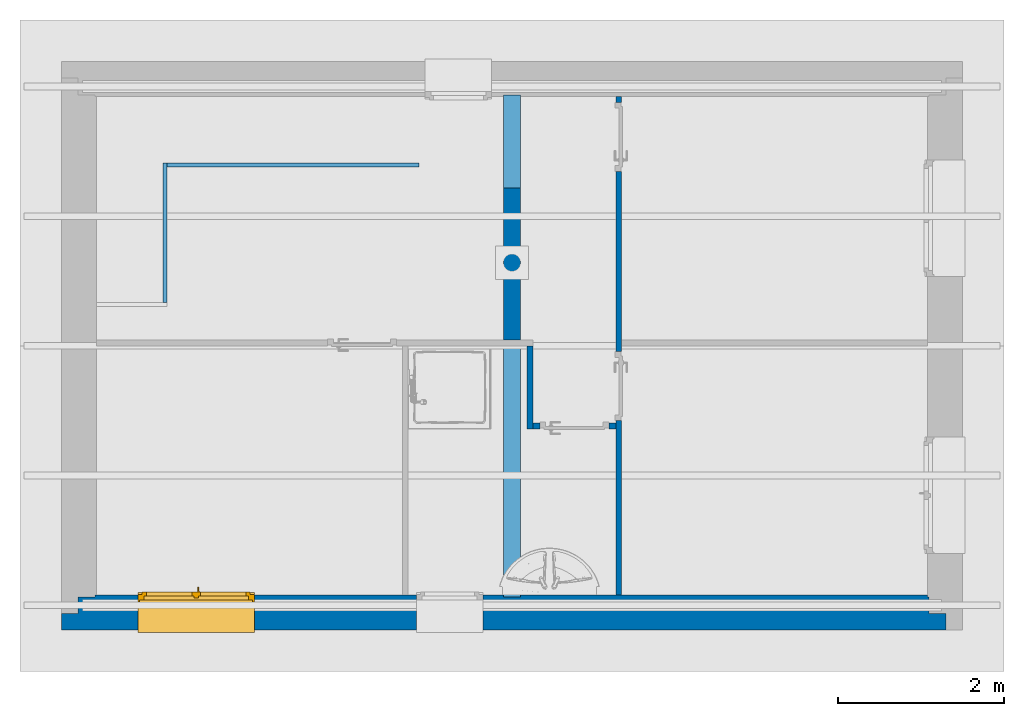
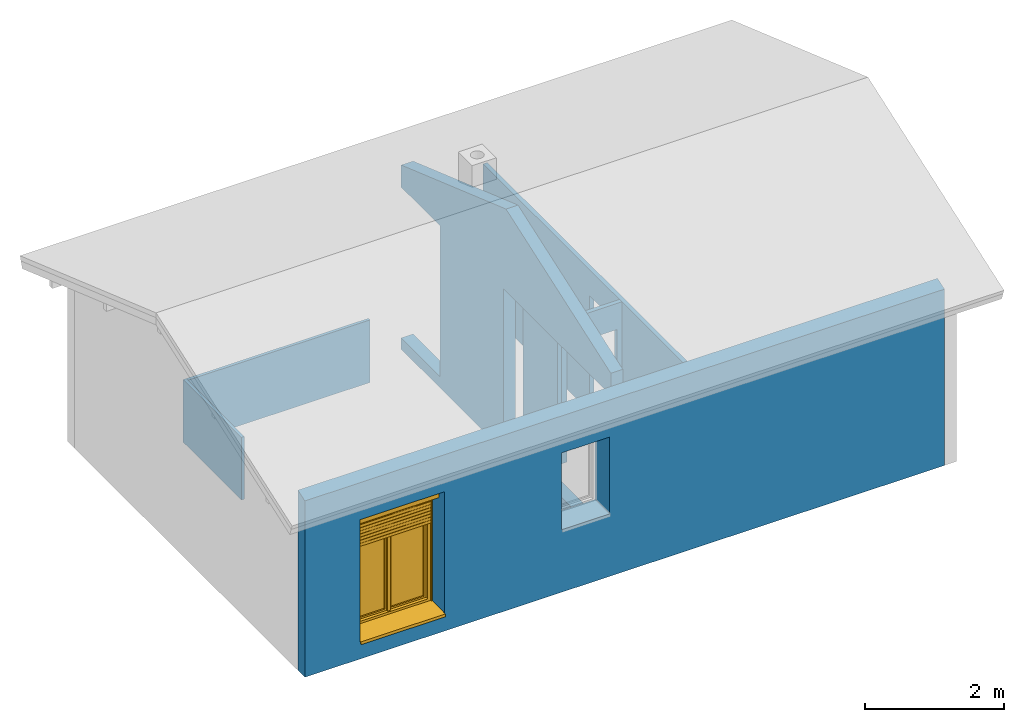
# One storey, part 2 of 7: 7 walls, 1 door, 7 openings.
"""IFC4 building model written with IfcOpenShell, lengths in metres."""

from ifc_helpers import new_model, entity, si_unit, converted_unit, frame, frame_2d, origin, origin_with_axes, place, context, subcontext, project, spatial, polyline, rectangle, outline, extrude, clip, bounded_halfspace, closed_shell, open_shell, surface_model, source, transform, mapped, material, layer, layer_set, layer_usage, type_object, element, fill, save


model = new_model("IFC4")

# Units and contexts
model_context = context("Model", 3, precision=1e-05, world=origin())
body_context = subcontext(model_context, "Body", "Model", "MODEL_VIEW")
ifc_project = project(units=[si_unit("LENGTHUNIT", "METRE"), si_unit("AREAUNIT", "SQUARE_METRE"), si_unit("VOLUMEUNIT", "CUBIC_METRE"), si_unit("MASSUNIT", "GRAM", prefix="KILO"), converted_unit("PLANEANGLEUNIT", "DEGREE", entity("IfcPlaneAngleMeasure", 0.0174532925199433), si_unit("PLANEANGLEUNIT", "RADIAN"), dimensions=[0, 0, 0, 0, 0, 0, 0])], contexts=[model_context])

# Building, storey
building_placement = place(None, origin())
building = spatial("IfcBuilding", under=ifc_project, at=building_placement, Name="Projet de Construction", CompositionType="ELEMENT")
storey_placement = place(building_placement, frame((0.0, 0.0, 2.8)))
storey = spatial("IfcBuildingStorey", under=building, at=storey_placement, Name="R+1", CompositionType="ELEMENT", Elevation=2.8)

# Wall, openings, door
ifc_material_1 = material()
ifc_layer_1 = layer(ifc_material_1, 0.2)
ifc_material_2 = material()
ifc_layer_2 = layer(ifc_material_2, 0.2)
ifc_material_3 = material()
ifc_layer_3 = layer(ifc_material_3, 0.0200000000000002)
ifc_layer_set_1 = layer_set([ifc_layer_1, ifc_layer_2, ifc_layer_3])
ifc_layer_usage_1 = layer_usage(ifc_layer_set_1, "AXIS2", "POSITIVE", 0.0)
wall_1_placement = place(storey_placement, frame((-7.2859375, 1.29979166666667, 0.0), z_axis=(0.0, 0.0, 1.0), x_axis=(1.0, -1.28218238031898e-16, 0.0)))
wall_1 = element("IfcWall", 1, at=wall_1_placement, inside=storey, material=ifc_layer_usage_1, context=body_context, shape_type="Clipping", body=[
    clip(clip(clip(clip(extrude(outline(polyline([(-1.74920712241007e-31, 1.36424205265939e-15), (10.64, 1.36424205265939e-15), (10.64, 0.200000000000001), (10.44, 0.200000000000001), (10.44, 0.400000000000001), (10.42, 0.400000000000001), (10.42, 0.420000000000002), (0.4, 0.420000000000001), (0.4, 0.400000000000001), (0.2, 0.400000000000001), (0.2, 0.200000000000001), (-2.56436476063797e-17, 0.200000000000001), (-1.74920712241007e-31, 1.36424205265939e-15)])), frame((1.74920712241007e-31, -1.36424205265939e-15, 0.0), z_axis=(0.0, 0.0, 1.0), x_axis=(1.0, 0.0, 0.0)), (0.0, 0.0, 1.0), 3.17000000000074), bounded_halfspace(frame((5.365, 0.355, 0.2), z_axis=(0.0, 0.0, 1.0), x_axis=(-1.28218238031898e-16, 1.0, 0.0)), True, origin_with_axes(), polyline([(10.42, 0.4), (10.42, 0.42), (0.4, 0.42), (0.399999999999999, 0.4), (0.2, 0.4), (0.2, 0.2), (10.44, 0.2), (10.44, 0.4), (10.42, 0.4)]))), bounded_halfspace(frame((5.32, 0.1, 3.13500000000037), z_axis=(-8.06799036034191e-17, 0.330350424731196, -0.943858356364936), x_axis=(-1.0, 0.0, 8.54788253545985e-17)), True, origin_with_axes(), polyline([(10.64, 0.2), (-2.56436476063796e-17, 0.2), (0.0, 0.0), (10.64, 0.0), (10.64, 0.2)]))), bounded_halfspace(frame((5.32, 0.3, 2.97000000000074), z_axis=(0.0, 0.0, -1.0), x_axis=(1.0, -5.00852492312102e-18, 0.0)), True, origin_with_axes(), polyline([(0.2, 0.2), (10.44, 0.2), (10.44, 0.4), (0.2, 0.4), (0.2, 0.2)]))), bounded_halfspace(frame((5.41, 0.41, 2.8), z_axis=(0.0, 0.0, -1.0), x_axis=(1.0, -7.93366343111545e-18, 0.0)), True, origin_with_axes(), polyline([(0.4, 0.4), (10.42, 0.4), (10.42, 0.42), (0.4, 0.42), (0.4, 0.4)]))),
])
opening_1_placement = place(wall_1_placement, frame((5.07, 0.199999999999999, 1.1), z_axis=(0.0, -1.0, 0.0), x_axis=(0.0, 0.0, 1.0)))
element("IfcOpeningStandardCase", 2, at=opening_1_placement, cuts=wall_1, Name="Baie de fenêtre", PredefinedType="OPENING", context=body_context, shape_type="SweptSolid", body=[
    extrude(outline(polyline([(0.0, 0.8), (1.35, 0.8), (1.35, 0.0), (0.0, 0.0), (0.0, 0.8)])), origin_with_axes(), (0.0, 0.0, 1.0), 0.2),
    extrude(outline(polyline([(0.0, 0.8), (1.35, 0.8), (1.35, 0.0), (0.0, 0.0), (0.0, 0.8)])), frame((0.0, 5.6843418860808e-17, -0.2), z_axis=(0.0, 0.0, 1.0), x_axis=(1.0, 0.0, 0.0)), (0.0, 0.0, 1.0), 0.2),
    extrude(outline(polyline([(0.0, 0.8), (1.35, 0.8), (1.35, 0.0), (0.0, 0.0), (0.0, 0.8)])), frame((0.0, 6.25277607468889e-17, -0.22), z_axis=(0.0, 0.0, 1.0), x_axis=(1.0, 0.0, 0.0)), (0.0, 0.0, 1.0), 0.0200000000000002),
])
opening_2_placement = place(wall_1_placement, frame((2.32, 0.199999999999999, 0.3), z_axis=(0.0, -1.0, 0.0), x_axis=(0.0, 0.0, 1.0)))
opening_2 = element("IfcOpeningStandardCase", 3, at=opening_2_placement, cuts=wall_1, Name="Baie de porte", PredefinedType="OPENING", context=body_context, shape_type="SweptSolid", body=[
    extrude(outline(polyline([(0.0, 1.4), (2.15, 1.4), (2.15, 0.0), (0.0, 0.0), (0.0, 1.4)])), origin_with_axes(), (0.0, 0.0, 1.0), 0.2),
    extrude(outline(polyline([(0.0, 1.4), (2.15, 1.4), (2.15, 0.0), (0.0, 0.0), (0.0, 1.4)])), frame((0.0, 3.24819536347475e-17, -0.2), z_axis=(0.0, 0.0, 1.0), x_axis=(1.0, 0.0, 0.0)), (0.0, 0.0, 1.0), 0.2),
    extrude(outline(polyline([(0.0, 1.4), (2.15, 1.4), (2.15, 0.0), (0.0, 0.0), (0.0, 1.4)])), frame((0.0, 3.57301489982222e-17, -0.22), z_axis=(0.0, 0.0, 1.0), x_axis=(1.0, 0.0, 0.0)), (0.0, 0.0, 1.0), 0.02),
])
ifc_material_4 = material()
door_type = type_object("IfcDoorType", Name="3 vantaux blanc, monté", OperationType="NOTDEFINED", ParameterTakesPrecedence=False, PredefinedType="DOOR")
shared_shape = source(origin_with_axes(), body_context, "Body", "SurfaceModel", [
    surface_model("IfcShellBasedSurfaceModel", [(0.0, 0.0199999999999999, 0.03), (0.0, 0.39, 0.03), (-3.67394039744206e-18, 0.39, 0.06), (-2.44929359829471e-18, 0.0, 0.05), (3.67394039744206e-18, 0.0, 0.0), (3.67394039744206e-18, 0.0199999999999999, 0.0), (1.4, 0.39, 0.0300000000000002), (1.4, 0.0199999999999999, 0.0300000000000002), (1.4, 0.0199999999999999, 1.70530256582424e-16), (1.4, 0.0, 1.70530256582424e-16), (1.4, 0.0, 0.0500000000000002), (1.4, 0.39, 0.0600000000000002)], [closed_shell([[[0, 1, 2, 3, 4, 5]], [[6, 7, 8, 9, 10, 11]], [[1, 0, 7, 6]], [[2, 1, 6, 11]], [[3, 2, 11, 10]], [[4, 3, 10, 9]], [[5, 4, 9, 8]], [[0, 5, 8, 7]]], orient=[[False], [False], [False], [False], [False], [False], [False], [False]])]),
    surface_model("IfcShellBasedSurfaceModel", [(0.0, 0.48, 0.03), (-3.67394039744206e-18, 0.48, 0.06), (-3.67394039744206e-18, 0.43, 0.06), (0.0, 0.43, 0.03), (1.4, 0.43, 0.0300000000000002), (1.4, 0.43, 0.0600000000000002), (1.4, 0.48, 0.0600000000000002), (1.4, 0.48, 0.0300000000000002)], [closed_shell([[[0, 1, 2, 3]], [[4, 5, 6, 7]], [[3, 4, 7, 0]], [[2, 5, 4, 3]], [[1, 6, 5, 2]], [[0, 7, 6, 1]]], orient=[[False], [False], [False], [False], [False], [False]])]),
    surface_model("IfcShellBasedSurfaceModel", [(0.0, 0.39, 2.18), (0.0, 0.39, 1.98), (1.4, 0.39, 1.98), (1.4, 0.39, 2.18), (0.0, 0.19, 1.98), (0.0, 0.19, 2.18), (1.4, 0.19, 2.18), (1.4, 0.19, 1.98)], [closed_shell([[[0, 1, 2, 3]], [[4, 5, 6, 7]], [[1, 0, 5, 4]], [[2, 1, 4, 7]], [[3, 2, 7, 6]], [[0, 3, 6, 5]]], orient=[[False], [False], [False], [False], [False], [False]])]),
    surface_model("IfcShellBasedSurfaceModel", [(0.0, 0.39, 1.98), (0.0, 0.39, 0.03), (0.02, 0.39, 0.03), (0.02, 0.39, 1.98), (0.0, 0.37, 0.03), (0.0, 0.37, 1.98), (0.02, 0.37, 1.98), (0.02, 0.37, 0.03)], [closed_shell([[[0, 1, 2, 3]], [[4, 5, 6, 7]], [[1, 0, 5, 4]], [[2, 1, 4, 7]], [[3, 2, 7, 6]], [[0, 3, 6, 5]]], orient=[[False], [False], [False], [False], [False], [False]])]),
    surface_model("IfcShellBasedSurfaceModel", [(1.38, 0.39, 1.98), (1.38, 0.39, 0.03), (1.4, 0.39, 0.03), (1.4, 0.39, 1.98), (1.38, 0.37, 0.03), (1.38, 0.37, 1.98), (1.4, 0.37, 1.98), (1.4, 0.37, 0.03)], [closed_shell([[[0, 1, 2, 3]], [[4, 5, 6, 7]], [[1, 0, 5, 4]], [[2, 1, 4, 7]], [[3, 2, 7, 6]], [[0, 3, 6, 5]]], orient=[[False], [False], [False], [False], [False], [False]])]),
    surface_model("IfcShellBasedSurfaceModel", [(0.01, 0.385, 1.975), (0.01, 0.385, 1.925), (1.39, 0.385, 1.925), (1.39, 0.385, 1.975), (0.01, 0.375, 1.925), (0.01, 0.375, 1.975), (1.39, 0.375, 1.975), (1.39, 0.375, 1.925)], [closed_shell([[[0, 1, 2, 3]], [[4, 5, 6, 7]], [[1, 0, 5, 4]], [[2, 1, 4, 7]], [[3, 2, 7, 6]], [[0, 3, 6, 5]]], orient=[[False], [False], [False], [False], [False], [False]])]),
    surface_model("IfcShellBasedSurfaceModel", [(0.01, 0.385, 1.92), (0.01, 0.385, 1.87), (1.39, 0.385, 1.87), (1.39, 0.385, 1.92), (0.01, 0.375, 1.87), (0.01, 0.375, 1.92), (1.39, 0.375, 1.92), (1.39, 0.375, 1.87)], [closed_shell([[[0, 1, 2, 3]], [[4, 5, 6, 7]], [[1, 0, 5, 4]], [[2, 1, 4, 7]], [[3, 2, 7, 6]], [[0, 3, 6, 5]]], orient=[[False], [False], [False], [False], [False], [False]])]),
    surface_model("IfcShellBasedSurfaceModel", [(0.01, 0.385, 1.865), (0.01, 0.385, 1.815), (1.39, 0.385, 1.815), (1.39, 0.385, 1.865), (0.01, 0.375, 1.815), (0.01, 0.375, 1.865), (1.39, 0.375, 1.865), (1.39, 0.375, 1.815)], [closed_shell([[[0, 1, 2, 3]], [[4, 5, 6, 7]], [[1, 0, 5, 4]], [[2, 1, 4, 7]], [[3, 2, 7, 6]], [[0, 3, 6, 5]]], orient=[[False], [False], [False], [False], [False], [False]])]),
    surface_model("IfcShellBasedSurfaceModel", [(0.01, 0.385, 1.81), (0.01, 0.385, 1.76), (1.39, 0.385, 1.76), (1.39, 0.385, 1.81), (0.01, 0.375, 1.76), (0.01, 0.375, 1.81), (1.39, 0.375, 1.81), (1.39, 0.375, 1.76)], [closed_shell([[[0, 1, 2, 3]], [[4, 5, 6, 7]], [[1, 0, 5, 4]], [[2, 1, 4, 7]], [[3, 2, 7, 6]], [[0, 3, 6, 5]]], orient=[[False], [False], [False], [False], [False], [False]])]),
    surface_model("IfcShellBasedSurfaceModel", [(0.01, 0.385, 1.755), (0.01, 0.385, 1.705), (1.39, 0.385, 1.705), (1.39, 0.385, 1.755), (0.01, 0.375, 1.705), (0.01, 0.375, 1.755), (1.39, 0.375, 1.755), (1.39, 0.375, 1.705)], [closed_shell([[[0, 1, 2, 3]], [[4, 5, 6, 7]], [[1, 0, 5, 4]], [[2, 1, 4, 7]], [[3, 2, 7, 6]], [[0, 3, 6, 5]]], orient=[[False], [False], [False], [False], [False], [False]])]),
    surface_model("IfcShellBasedSurfaceModel", [(0.01, 0.385, 1.7), (0.01, 0.385, 1.65), (1.39, 0.385, 1.65), (1.39, 0.385, 1.7), (0.01, 0.375, 1.65), (0.01, 0.375, 1.7), (1.39, 0.375, 1.7), (1.39, 0.375, 1.65)], [closed_shell([[[0, 1, 2, 3]], [[4, 5, 6, 7]], [[1, 0, 5, 4]], [[2, 1, 4, 7]], [[3, 2, 7, 6]], [[0, 3, 6, 5]]], orient=[[False], [False], [False], [False], [False], [False]])]),
    surface_model("IfcShellBasedSurfaceModel", [(0.01, 0.385, 1.645), (0.01, 0.385, 1.595), (1.39, 0.385, 1.595), (1.39, 0.385, 1.645), (0.01, 0.375, 1.595), (0.01, 0.375, 1.645), (1.39, 0.375, 1.645), (1.39, 0.375, 1.595)], [closed_shell([[[0, 1, 2, 3]], [[4, 5, 6, 7]], [[1, 0, 5, 4]], [[2, 1, 4, 7]], [[3, 2, 7, 6]], [[0, 3, 6, 5]]], orient=[[False], [False], [False], [False], [False], [False]])]),
    surface_model("IfcShellBasedSurfaceModel", [(0.01, 0.385, 1.59), (0.01, 0.385, 1.54), (1.39, 0.385, 1.54), (1.39, 0.385, 1.59), (0.01, 0.375, 1.54), (0.01, 0.375, 1.59), (1.39, 0.375, 1.59), (1.39, 0.375, 1.54)], [closed_shell([[[0, 1, 2, 3]], [[4, 5, 6, 7]], [[1, 0, 5, 4]], [[2, 1, 4, 7]], [[3, 2, 7, 6]], [[0, 3, 6, 5]]], orient=[[False], [False], [False], [False], [False], [False]])]),
    surface_model("IfcShellBasedSurfaceModel", [(0.01, 0.385, 1.535), (0.01, 0.385, 1.485), (1.39, 0.385, 1.485), (1.39, 0.385, 1.535), (0.01, 0.375, 1.485), (0.01, 0.375, 1.535), (1.39, 0.375, 1.535), (1.39, 0.375, 1.485)], [closed_shell([[[0, 1, 2, 3]], [[4, 5, 6, 7]], [[1, 0, 5, 4]], [[2, 1, 4, 7]], [[3, 2, 7, 6]], [[0, 3, 6, 5]]], orient=[[False], [False], [False], [False], [False], [False]])]),
    surface_model("IfcShellBasedSurfaceModel", [(0.01, 0.385, 1.48), (0.01, 0.385, 1.43), (1.39, 0.385, 1.43), (1.39, 0.385, 1.48), (0.01, 0.375, 1.43), (0.01, 0.375, 1.48), (1.39, 0.375, 1.48), (1.39, 0.375, 1.43)], [closed_shell([[[0, 1, 2, 3]], [[4, 5, 6, 7]], [[1, 0, 5, 4]], [[2, 1, 4, 7]], [[3, 2, 7, 6]], [[0, 3, 6, 5]]], orient=[[False], [False], [False], [False], [False], [False]])]),
    surface_model("IfcShellBasedSurfaceModel", [(0.0, 0.46, 2.18), (0.0, 0.46, 0.03), (0.07, 0.46, 0.03), (0.07, 0.46, 2.18), (0.0, 0.39, 0.03), (0.0, 0.39, 2.18), (0.07, 0.39, 2.18), (0.07, 0.39, 0.03)], [closed_shell([[[0, 1, 2, 3]], [[4, 5, 6, 7]], [[1, 0, 5, 4]], [[2, 1, 4, 7]], [[3, 2, 7, 6]], [[0, 3, 6, 5]]], orient=[[False], [False], [False], [False], [False], [False]])]),
    surface_model("IfcShellBasedSurfaceModel", [(1.33, 0.46, 2.18), (1.33, 0.46, 0.03), (1.4, 0.46, 0.03), (1.4, 0.46, 2.18), (1.33, 0.39, 0.03), (1.33, 0.39, 2.18), (1.4, 0.39, 2.18), (1.4, 0.39, 0.03)], [closed_shell([[[0, 1, 2, 3]], [[4, 5, 6, 7]], [[1, 0, 5, 4]], [[2, 1, 4, 7]], [[3, 2, 7, 6]], [[0, 3, 6, 5]]], orient=[[False], [False], [False], [False], [False], [False]])]),
    surface_model("IfcShellBasedSurfaceModel", [(0.07, 0.46, 0.1), (0.07, 0.46, 0.03), (1.33, 0.46, 0.03), (1.33, 0.46, 0.1), (0.07, 0.39, 0.03), (0.07, 0.39, 0.1), (1.33, 0.39, 0.1), (1.33, 0.39, 0.03)], [closed_shell([[[0, 1, 2, 3]], [[4, 5, 6, 7]], [[1, 0, 5, 4]], [[2, 1, 4, 7]], [[3, 2, 7, 6]], [[0, 3, 6, 5]]], orient=[[False], [False], [False], [False], [False], [False]])]),
    surface_model("IfcShellBasedSurfaceModel", [(0.07, 0.46, 2.18), (0.07, 0.46, 2.11), (1.33, 0.46, 2.11), (1.33, 0.46, 2.18), (0.07, 0.39, 2.11), (0.07, 0.39, 2.18), (1.33, 0.39, 2.18), (1.33, 0.39, 2.11)], [closed_shell([[[0, 1, 2, 3]], [[4, 5, 6, 7]], [[1, 0, 5, 4]], [[2, 1, 4, 7]], [[3, 2, 7, 6]], [[0, 3, 6, 5]]], orient=[[False], [False], [False], [False], [False], [False]])]),
    surface_model("IfcShellBasedSurfaceModel", [(0.05, 0.49, 2.13), (0.05, 0.49, 0.08), (0.1, 0.49, 0.08), (0.1, 0.49, 2.13), (0.05, 0.44, 0.08), (0.05, 0.44, 2.13), (0.1, 0.44, 2.13), (0.1, 0.44, 0.08)], [closed_shell([[[0, 1, 2, 3]], [[4, 5, 6, 7]], [[1, 0, 5, 4]], [[2, 1, 4, 7]], [[3, 2, 7, 6]], [[0, 3, 6, 5]]], orient=[[False], [False], [False], [False], [False], [False]])]),
    surface_model("IfcShellBasedSurfaceModel", [(0.6495, 0.49, 2.13), (0.6495, 0.49, 0.08), (0.6995, 0.49, 0.08), (0.6995, 0.49, 2.13), (0.6495, 0.44, 0.08), (0.6495, 0.44, 2.13), (0.6995, 0.44, 2.13), (0.6995, 0.44, 0.08)], [closed_shell([[[0, 1, 2, 3]], [[4, 5, 6, 7]], [[1, 0, 5, 4]], [[2, 1, 4, 7]], [[3, 2, 7, 6]], [[0, 3, 6, 5]]], orient=[[False], [False], [False], [False], [False], [False]])]),
    surface_model("IfcShellBasedSurfaceModel", [(0.1, 0.49, 0.13), (0.1, 0.49, 0.08), (0.6495, 0.49, 0.08), (0.6495, 0.49, 0.13), (0.1, 0.44, 0.08), (0.1, 0.44, 0.13), (0.6495, 0.44, 0.13), (0.6495, 0.44, 0.08)], [closed_shell([[[0, 1, 2, 3]], [[4, 5, 6, 7]], [[1, 0, 5, 4]], [[2, 1, 4, 7]], [[3, 2, 7, 6]], [[0, 3, 6, 5]]], orient=[[False], [False], [False], [False], [False], [False]])]),
    surface_model("IfcShellBasedSurfaceModel", [(0.1, 0.49, 2.13), (0.1, 0.49, 2.08), (0.6495, 0.49, 2.08), (0.6495, 0.49, 2.13), (0.1, 0.44, 2.08), (0.1, 0.44, 2.13), (0.6495, 0.44, 2.13), (0.6495, 0.44, 2.08)], [closed_shell([[[0, 1, 2, 3]], [[4, 5, 6, 7]], [[1, 0, 5, 4]], [[2, 1, 4, 7]], [[3, 2, 7, 6]], [[0, 3, 6, 5]]], orient=[[False], [False], [False], [False], [False], [False]])]),
    surface_model("IfcShellBasedSurfaceModel", [(0.6745, 0.44, 2.11), (0.6745, 0.44, 0.1), (0.7245, 0.44, 0.1), (0.7245, 0.44, 2.11), (0.6745, 0.415, 0.1), (0.6745, 0.415, 2.11), (0.7245, 0.415, 2.11), (0.7245, 0.415, 0.1)], [closed_shell([[[0, 1, 2, 3]], [[4, 5, 6, 7]], [[1, 0, 5, 4]], [[2, 1, 4, 7]], [[3, 2, 7, 6]], [[0, 3, 6, 5]]], orient=[[False], [False], [False], [False], [False], [False]])]),
    surface_model("IfcShellBasedSurfaceModel", [(0.662, 0.49, 0.6), (0.687, 0.49, 0.6), (0.687, 0.49, 0.56), (0.662, 0.49, 0.56), (0.662, 0.5, 0.56), (0.687, 0.5, 0.56), (0.687, 0.5, 0.6), (0.662, 0.5, 0.6)], [closed_shell([[[0, 1, 2, 3]], [[4, 5, 6, 7]], [[3, 4, 7, 0]], [[2, 5, 4, 3]], [[1, 6, 5, 2]], [[0, 7, 6, 1]]], orient=[[False], [False], [False], [False], [False], [False]])]),
    surface_model("IfcShellBasedSurfaceModel", [(0.6845, 0.5, 0.58), (0.683160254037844, 0.5, 0.575), (0.6795, 0.5, 0.571339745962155), (0.6745, 0.5, 0.57), (0.6695, 0.5, 0.571339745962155), (0.665839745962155, 0.5, 0.575), (0.6645, 0.5, 0.58), (0.665839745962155, 0.5, 0.585), (0.6695, 0.5, 0.588660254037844), (0.6745, 0.5, 0.59), (0.6795, 0.5, 0.588660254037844), (0.683160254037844, 0.5, 0.585), (0.683160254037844, 0.545, 0.585), (0.6845, 0.54, 0.58), (0.6795, 0.548660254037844, 0.588660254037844), (0.6745, 0.55, 0.59), (0.6695, 0.548660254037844, 0.588660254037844), (0.665839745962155, 0.545, 0.585), (0.6645, 0.54, 0.58), (0.665839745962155, 0.535, 0.575), (0.6695, 0.531339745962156, 0.571339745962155), (0.6745, 0.53, 0.57), (0.6795, 0.531339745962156, 0.571339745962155), (0.683160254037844, 0.535, 0.575), (0.6845, 0.54, 0.465), (0.683160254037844, 0.545, 0.465), (0.6795, 0.548660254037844, 0.465), (0.6745, 0.55, 0.465), (0.6695, 0.548660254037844, 0.465), (0.665839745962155, 0.545, 0.465), (0.6645, 0.54, 0.465), (0.665839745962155, 0.535, 0.465), (0.6695, 0.531339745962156, 0.465), (0.6745, 0.53, 0.465), (0.6795, 0.531339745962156, 0.465), (0.683160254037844, 0.535, 0.465)], [closed_shell([[[0, 1, 2, 3, 4, 5, 6, 7, 8, 9, 10, 11]], [[0, 11, 12, 13]], [[11, 10, 14, 12]], [[10, 9, 15, 14]], [[9, 8, 16, 15]], [[8, 7, 17, 16]], [[7, 6, 18, 17]], [[6, 5, 19, 18]], [[5, 4, 20, 19]], [[4, 3, 21, 20]], [[3, 2, 22, 21]], [[2, 1, 23, 22]], [[1, 0, 13, 23]], [[24, 25, 26, 27, 28, 29, 30, 31, 32, 33, 34, 35]], [[13, 12, 25, 24]], [[12, 14, 26, 25]], [[14, 15, 27, 26]], [[15, 16, 28, 27]], [[16, 17, 29, 28]], [[17, 18, 30, 29]], [[18, 19, 31, 30]], [[19, 20, 32, 31]], [[20, 21, 33, 32]], [[21, 22, 34, 33]], [[22, 23, 35, 34]], [[23, 13, 24, 35]]], orient=[[False], [False], [False], [False], [False], [False], [False], [False], [False], [False], [False], [False], [False], [False], [False], [False], [False], [False], [False], [False], [False], [False], [False], [False], [False], [False]])]),
    surface_model("IfcShellBasedSurfaceModel", [(0.7005, 0.49, 2.13), (0.7005, 0.49, 0.08), (0.7505, 0.49, 0.08), (0.7505, 0.49, 2.13), (0.7005, 0.44, 0.08), (0.7005, 0.44, 2.13), (0.7505, 0.44, 2.13), (0.7505, 0.44, 0.08)], [closed_shell([[[0, 1, 2, 3]], [[4, 5, 6, 7]], [[1, 0, 5, 4]], [[2, 1, 4, 7]], [[3, 2, 7, 6]], [[0, 3, 6, 5]]], orient=[[False], [False], [False], [False], [False], [False]])]),
    surface_model("IfcShellBasedSurfaceModel", [(1.3, 0.49, 2.13), (1.3, 0.49, 0.08), (1.35, 0.49, 0.08), (1.35, 0.49, 2.13), (1.3, 0.44, 0.08), (1.3, 0.44, 2.13), (1.35, 0.44, 2.13), (1.35, 0.44, 0.08)], [closed_shell([[[0, 1, 2, 3]], [[4, 5, 6, 7]], [[1, 0, 5, 4]], [[2, 1, 4, 7]], [[3, 2, 7, 6]], [[0, 3, 6, 5]]], orient=[[False], [False], [False], [False], [False], [False]])]),
    surface_model("IfcShellBasedSurfaceModel", [(0.7505, 0.49, 0.13), (0.7505, 0.49, 0.08), (1.3, 0.49, 0.08), (1.3, 0.49, 0.13), (0.7505, 0.44, 0.08), (0.7505, 0.44, 0.13), (1.3, 0.44, 0.13), (1.3, 0.44, 0.08)], [closed_shell([[[0, 1, 2, 3]], [[4, 5, 6, 7]], [[1, 0, 5, 4]], [[2, 1, 4, 7]], [[3, 2, 7, 6]], [[0, 3, 6, 5]]], orient=[[False], [False], [False], [False], [False], [False]])]),
    surface_model("IfcShellBasedSurfaceModel", [(0.7505, 0.49, 2.13), (0.7505, 0.49, 2.08), (1.3, 0.49, 2.08), (1.3, 0.49, 2.13), (0.7505, 0.44, 2.08), (0.7505, 0.44, 2.13), (1.3, 0.44, 2.13), (1.3, 0.44, 2.08)], [closed_shell([[[0, 1, 2, 3]], [[4, 5, 6, 7]], [[1, 0, 5, 4]], [[2, 1, 4, 7]], [[3, 2, 7, 6]], [[0, 3, 6, 5]]], orient=[[False], [False], [False], [False], [False], [False]])]),
    surface_model("IfcShellBasedSurfaceModel", [(0.1, 0.465, 0.13), (0.6495, 0.465, 0.13), (0.6495, 0.465, 2.08), (0.1, 0.465, 2.08)], [open_shell([[[0, 1, 2, 3]]], orient=[[False]])]),
    surface_model("IfcShellBasedSurfaceModel", [(0.7505, 0.465, 0.13), (1.3, 0.465, 0.13), (1.3, 0.465, 2.08), (0.7505, 0.465, 2.08)], [open_shell([[[0, 1, 2, 3]]], orient=[[False]])]),
])
door_placement = place(opening_2_placement, frame((-0.03, -9.09494701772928e-16, 0.23), z_axis=(1.0, 0.0, 0.0), x_axis=(0.0, 1.0, -1.16711121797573e-16)))
door = element("IfcDoor", 4, at=door_placement, inside=storey, type_object=door_type, material=ifc_material_4, Name="3 vantaux blanc, monté", OverallHeight=2.15, OverallWidth=1.4, context=body_context, shape_type="MappedRepresentation", body=[
    mapped(shared_shape, transform((0.0, 0.0, 0.0), x_axis=(1.0, 0.0, 0.0), y_axis=(0.0, -1.0, 0.0), z_axis=(0.0, 0.0, 1.0), scale=1.0)),
])
fill(opening_2, door)

# Wall, openings
ifc_material_5 = material()
ifc_layer_4 = layer(ifc_material_5, 0.2)
ifc_layer_set_2 = layer_set([ifc_layer_4])
ifc_layer_usage_2 = layer_usage(ifc_layer_set_2, "AXIS2", "POSITIVE", 0.0)
wall_2_placement = place(storey_placement, frame((-1.9659375, 7.73979166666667, 0.0), z_axis=(0.0, 0.0, 1.0), x_axis=(-1.88223241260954e-16, -1.0, 0.0)))
wall_2 = element("IfcWall", 5, at=wall_2_placement, inside=storey, material=ifc_layer_usage_2, context=body_context, shape_type="Clipping", body=[
    clip(clip(extrude(rectangle(XDim=6.04, YDim=0.2, at=frame_2d((3.02, 0.1), x_axis=(1.0, 0.0))), origin_with_axes(), (0.0, 0.0, 1.0), 4.29700000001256), bounded_halfspace(frame((4.53, 0.1, 3.76850000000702), z_axis=(-0.330350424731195, -6.21796276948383e-17, -0.943858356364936), x_axis=(-0.943858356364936, 3.55312158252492e-17, 0.330350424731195)), True, origin_with_axes(), polyline([(6.04, 0.2), (3.02, 0.2), (3.02, -1.13686837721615e-16), (6.04, -2.27373675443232e-16), (6.04, 0.2)]))), bounded_halfspace(frame((1.51, 0.1, 3.76850000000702), z_axis=(0.330350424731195, 6.21796276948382e-17, -0.943858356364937), x_axis=(0.943858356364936, -3.55312158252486e-17, 0.330350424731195)), True, origin_with_axes(), polyline([(0.0, 0.0), (3.02, -1.13686837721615e-16), (3.02, 0.2), (-3.76446482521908e-17, 0.2), (0.0, 0.0)]))),
])
opening_3_placement = place(wall_2_placement, frame((2.95, 1.0051121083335e-16, 0.2), z_axis=(0.0, 1.0, 0.0), x_axis=(0.0, 0.0, 1.0)))
element("IfcOpeningStandardCase", 6, at=opening_3_placement, cuts=wall_2, Name="Baie de porte", PredefinedType="OPENING", context=body_context, shape_type="SweptSolid", body=[
    extrude(outline(polyline([(0.0, 3.08999999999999), (2.65, 3.08999999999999), (2.65, 0.0), (0.0, 0.0), (0.0, 3.08999999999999)])), origin_with_axes(), (0.0, 0.0, 1.0), 0.2),
])
opening_4_placement = place(wall_2_placement, frame((0.0, 0.0, 0.2), z_axis=(-1.88223241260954e-16, 1.0, 0.0), x_axis=(0.0, 0.0, 1.0)))
element("IfcOpeningStandardCase", 7, at=opening_4_placement, cuts=wall_2, Name="Baie de porte", PredefinedType="OPENING", context=body_context, shape_type="SweptSolid", body=[
    extrude(outline(polyline([(0.0, 1.12), (2.65, 1.12), (2.65, 0.0), (0.0, 0.0), (0.0, 1.12)])), origin_with_axes(), (0.0, 0.0, 1.0), 0.2),
])

# Wall
ifc_material_6 = material()
ifc_layer_5 = layer(ifc_material_6, 0.07)
ifc_layer_set_3 = layer_set([ifc_layer_5])
ifc_layer_usage_3 = layer_usage(ifc_layer_set_3, "AXIS2", "POSITIVE", 0.0)
wall_3_placement = place(storey_placement, frame((-1.6159375, 3.71979166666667, 0.3), z_axis=(0.0, 0.0, 1.0), x_axis=(2.27373675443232e-16, 1.0, 0.0)))
element("IfcWall", 8, at=wall_3_placement, inside=storey, material=ifc_layer_usage_3, context=body_context, shape_type="SweptSolid", body=[
    extrude(rectangle(XDim=1.0, YDim=0.07, at=frame_2d((0.5, 0.035), x_axis=(1.0, 0.0))), origin_with_axes(), (0.0, 0.0, 1.0), 2.5),
])

# Wall, opening
ifc_material_7 = material()
ifc_layer_6 = layer(ifc_material_7, 0.07)
ifc_layer_set_4 = layer_set([ifc_layer_6])
ifc_layer_usage_4 = layer_usage(ifc_layer_set_4, "AXIS2", "POSITIVE", 0.0)
wall_4_placement = place(storey_placement, frame((-0.615937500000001, 3.78979166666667, 0.3), z_axis=(0.0, 0.0, 1.0), x_axis=(-1.0, 0.0, 0.0)))
wall_4 = element("IfcWall", 9, at=wall_4_placement, inside=storey, material=ifc_layer_usage_4, context=body_context, shape_type="SweptSolid", body=[
    extrude(rectangle(XDim=0.999999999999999, YDim=0.07, at=frame_2d((0.5, 0.035), x_axis=(1.0, 0.0))), origin_with_axes(), (0.0, 0.0, 1.0), 2.5),
])
opening_5_placement = place(wall_4_placement, frame((0.915, 0.07, 0.0), z_axis=(0.0, -1.0, 0.0), x_axis=(0.0, 0.0, 1.0)))
element("IfcOpeningStandardCase", 10, at=opening_5_placement, cuts=wall_4, Name="Baie de porte", PredefinedType="OPENING", context=body_context, shape_type="SweptSolid", body=[
    extrude(outline(polyline([(0.0, 0.83), (2.04, 0.83), (2.04, 0.0), (0.0, 0.0), (0.0, 0.83)])), origin_with_axes(), (0.0, 0.0, 1.0), 0.07),
])

# Wall, openings
ifc_material_8 = material()
ifc_layer_7 = layer(ifc_material_8, 0.07)
ifc_layer_set_5 = layer_set([ifc_layer_7])
ifc_layer_usage_5 = layer_usage(ifc_layer_set_5, "AXIS2", "POSITIVE", 0.0)
wall_5_placement = place(storey_placement, frame((-0.6159375, 7.71979166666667, 0.3), z_axis=(0.0, 0.0, 1.0), x_axis=(-1.8947806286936e-16, -1.0, 0.0)))
wall_5 = element("IfcWall", 11, at=wall_5_placement, inside=storey, material=ifc_layer_usage_5, context=body_context, shape_type="SweptSolid", body=[
    extrude(rectangle(XDim=6.0, YDim=0.07, at=frame_2d((3.0, 0.035), x_axis=(1.0, 0.0))), origin_with_axes(), (0.0, 0.0, 1.0), 2.5),
])
opening_6_placement = place(wall_5_placement, frame((0.0699999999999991, 1.3263464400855e-17, 0.0), z_axis=(-2.03012210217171e-16, 1.0, 0.0), x_axis=(0.0, 0.0, 1.0)))
element("IfcOpeningStandardCase", 12, at=opening_6_placement, cuts=wall_5, Name="Baie de porte", PredefinedType="OPENING", context=body_context, shape_type="SweptSolid", body=[
    extrude(outline(polyline([(0.0, 0.83), (2.04, 0.83), (2.04, 0.0), (0.0, 0.0), (0.0, 0.83)])), origin_with_axes(), (0.0, 0.0, 1.0), 0.07),
])
opening_7_placement = place(wall_5_placement, frame((3.9, 0.0700000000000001, 0.0), z_axis=(0.0, -1.0, 0.0), x_axis=(0.0, 0.0, 1.0)))
element("IfcOpeningStandardCase", 13, at=opening_7_placement, cuts=wall_5, Name="Baie de porte", PredefinedType="OPENING", context=body_context, shape_type="SweptSolid", body=[
    extrude(outline(polyline([(0.0, 0.83), (2.04, 0.83), (2.04, 0.0), (0.0, 0.0), (0.0, 0.83)])), origin_with_axes(), (0.0, 0.0, 1.0), 0.07),
])

# Walls
ifc_material_9 = material(Name="Bois & Verre")
ifc_layer_8 = layer(ifc_material_9, 0.05)
ifc_layer_set_6 = layer_set([ifc_layer_8])
ifc_layer_usage_6 = layer_usage(ifc_layer_set_6, "AXIS2", "POSITIVE", 0.0)
wall_6_placement = place(storey_placement, frame((-6.0659375, 6.91979166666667, 0.3), z_axis=(0.0, 0.0, 1.0), x_axis=(0.0, -1.0, 0.0)))
element("IfcWall", 14, at=wall_6_placement, inside=storey, material=ifc_layer_usage_6, context=body_context, shape_type="SweptSolid", body=[
    extrude(rectangle(XDim=1.68, YDim=0.05, at=frame_2d((0.84, 0.025), x_axis=(1.0, 0.0))), origin_with_axes(), (0.0, 0.0, 1.0), 1.1),
])
ifc_material_10 = material(Name="Bois & Verre")
ifc_layer_9 = layer(ifc_material_10, 0.05)
ifc_layer_set_7 = layer_set([ifc_layer_9])
ifc_layer_usage_7 = layer_usage(ifc_layer_set_7, "AXIS2", "POSITIVE", 0.0)
wall_7_placement = place(storey_placement, frame((-2.9859375, 6.91979166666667, 0.3), z_axis=(0.0, 0.0, 1.0), x_axis=(-1.0, 0.0, 0.0)))
element("IfcWall", 15, at=wall_7_placement, inside=storey, material=ifc_layer_usage_7, context=body_context, shape_type="SweptSolid", body=[
    extrude(rectangle(XDim=3.03, YDim=0.05, at=frame_2d((1.515, 0.025), x_axis=(1.0, 0.0))), origin_with_axes(), (0.0, 0.0, 1.0), 1.1),
])

save(model, "model.ifc")
